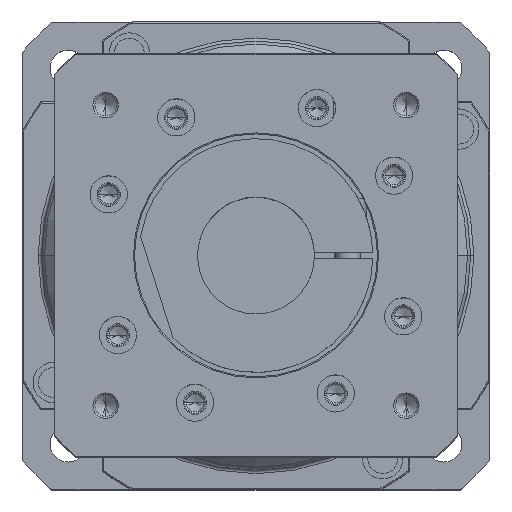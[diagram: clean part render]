
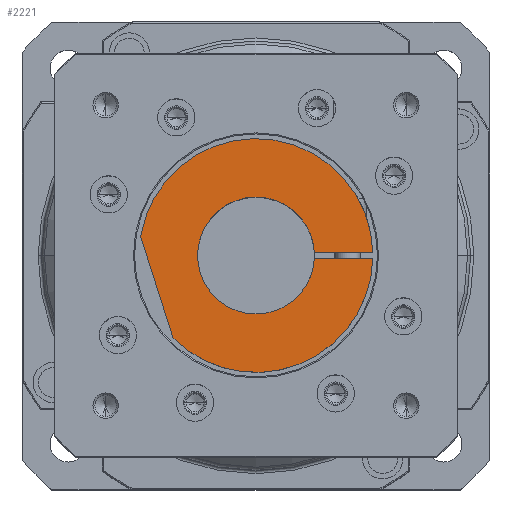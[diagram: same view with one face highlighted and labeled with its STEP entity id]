
A CAD part, top view. The second image highlights one B-rep face of the part: STEP entity #2221.
In plain terms, the highlighted planar face has unit normal (0, 0, 1).
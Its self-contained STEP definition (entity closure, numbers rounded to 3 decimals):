
#677=CARTESIAN_POINT('',(0.,0.,185.));
#678=DIRECTION('',(0.,0.,1.));
#679=DIRECTION('',(1.,0.027,0.));
#680=AXIS2_PLACEMENT_3D('',#677,#678,#679);
#682=CARTESIAN_POINT('',(0.,0.,185.));
#683=DIRECTION('',(0.,0.,1.));
#684=DIRECTION('',(-0.711,-0.704,0.));
#685=AXIS2_PLACEMENT_3D('',#682,#683,#684);
#714=DIRECTION('',(-0.305,0.953,0.));
#715=VECTOR('',#714,49.921);
#716=CARTESIAN_POINT('',(-39.081,-38.7,185.));
#717=LINE('',#716,#715);
#718=DIRECTION('',(-1.,0.,0.));
#719=VECTOR('',#718,27.52);
#720=CARTESIAN_POINT('',(54.98,1.5,185.));
#721=LINE('',#720,#719);
#722=CARTESIAN_POINT('',(0.,0.,185.));
#723=DIRECTION('',(0.,0.,1.));
#724=DIRECTION('',(0.999,0.055,0.));
#725=AXIS2_PLACEMENT_3D('',#722,#723,#724);
#727=CARTESIAN_POINT('',(0.,0.,185.));
#728=DIRECTION('',(0.,0.,-1.));
#729=DIRECTION('',(0.,-1.,0.));
#730=AXIS2_PLACEMENT_3D('',#727,#728,#729);
#732=CARTESIAN_POINT('',(0.,0.,185.));
#733=DIRECTION('',(0.,0.,1.));
#734=DIRECTION('',(0.,-1.,0.));
#735=AXIS2_PLACEMENT_3D('',#732,#733,#734);
#737=DIRECTION('',(-1.,0.,0.));
#738=VECTOR('',#737,27.52);
#739=CARTESIAN_POINT('',(54.98,-1.5,185.));
#740=LINE('',#739,#738);
#1122=CARTESIAN_POINT('',(0.,-27.5,185.));
#1124=VERTEX_POINT('',#1122);
#1126=CARTESIAN_POINT('',(0.,27.5,185.));
#1128=VERTEX_POINT('',#1126);
#1141=CARTESIAN_POINT('',(27.459,-1.5,185.));
#1142=VERTEX_POINT('',#1141);
#1143=CARTESIAN_POINT('',(27.459,1.5,185.));
#1144=VERTEX_POINT('',#1143);
#1145=CARTESIAN_POINT('',(54.98,-1.5,185.));
#1146=VERTEX_POINT('',#1145);
#1147=CARTESIAN_POINT('',(54.98,1.5,185.));
#1148=VERTEX_POINT('',#1147);
#1161=CARTESIAN_POINT('',(-39.081,-38.7,185.));
#1162=CARTESIAN_POINT('',(-54.283,8.85,185.));
#1163=VERTEX_POINT('',#1161);
#1164=VERTEX_POINT('',#1162);
#2205=CARTESIAN_POINT('',(0.,0.,185.));
#2206=DIRECTION('',(0.,0.,1.));
#2207=DIRECTION('',(0.,1.,0.));
#2208=AXIS2_PLACEMENT_3D('',#2205,#2206,#2207);
#2209=PLANE('',#2208);
#2210=ORIENTED_EDGE('',*,*,#2144,.T.);
#2211=ORIENTED_EDGE('',*,*,#2160,.F.);
#2212=ORIENTED_EDGE('',*,*,#2190,.T.);
#2213=ORIENTED_EDGE('',*,*,#2085,.T.);
#2215=ORIENTED_EDGE('',*,*,#2214,.F.);
#2216=ORIENTED_EDGE('',*,*,#2077,.T.);
#2217=ORIENTED_EDGE('',*,*,#2104,.F.);
#2218=ORIENTED_EDGE('',*,*,#2177,.F.);
#2219=EDGE_LOOP('',(#2210,#2211,#2212,#2213,#2215,#2216,#2217,#2218));
#2220=FACE_OUTER_BOUND('',#2219,.F.);
#681=CIRCLE('',#680,55.);
#686=CIRCLE('',#685,55.);
#726=CIRCLE('',#725,27.5);
#731=CIRCLE('',#730,27.5);
#736=CIRCLE('',#735,27.5);
#2077=EDGE_CURVE('',#1124,#1142,#736,.T.);
#2085=EDGE_CURVE('',#1144,#1128,#726,.T.);
#2104=EDGE_CURVE('',#1146,#1142,#740,.T.);
#2144=EDGE_CURVE('',#1163,#1164,#717,.T.);
#2160=EDGE_CURVE('',#1148,#1164,#681,.T.);
#2177=EDGE_CURVE('',#1163,#1146,#686,.T.);
#2190=EDGE_CURVE('',#1148,#1144,#721,.T.);
#2214=EDGE_CURVE('',#1124,#1128,#731,.T.);
#2221=ADVANCED_FACE('',(#2220),#2209,.T.);
